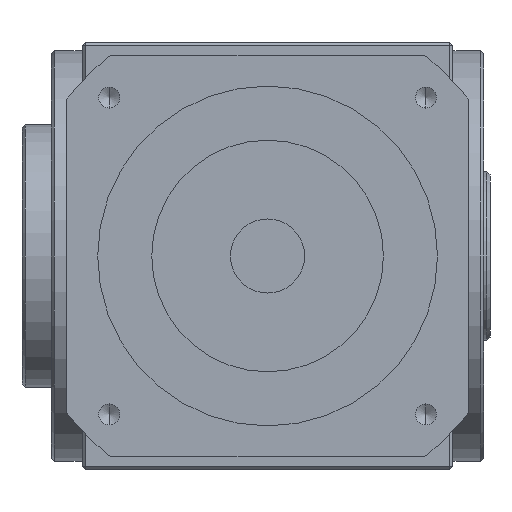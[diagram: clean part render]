
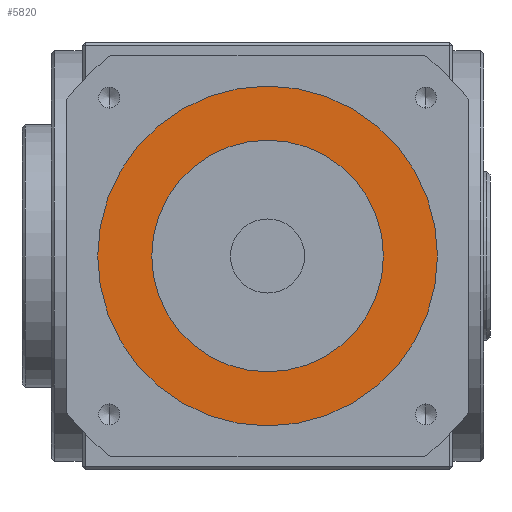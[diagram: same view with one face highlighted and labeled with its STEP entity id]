
A CAD part, front view. The second image highlights one B-rep face of the part: STEP entity #5820.
In plain terms, the highlighted planar face has unit normal (0, -1, 0).
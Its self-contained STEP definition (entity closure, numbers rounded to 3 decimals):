
#556 = CARTESIAN_POINT ( 'NONE',  ( 0., -239., 55. ) ) ;
#2573 = AXIS2_PLACEMENT_3D ( 'NONE', #8893, #3729, #9723 ) ;
#2832 = AXIS2_PLACEMENT_3D ( 'NONE', #8053, #2900, #8906 ) ;
#2900 = DIRECTION ( 'NONE',  ( 0., 1., 0. ) ) ;
#3096 = CARTESIAN_POINT ( 'NONE',  ( 0., -239., 37.5 ) ) ;
#3132 = VERTEX_POINT ( 'NONE', #4850 ) ;
#3729 = DIRECTION ( 'NONE',  ( 0., -1., 0. ) ) ;
#3789 = DIRECTION ( 'NONE',  ( 0., -1., 0. ) ) ;
#4231 = AXIS2_PLACEMENT_3D ( 'NONE', #4657, #10587, #5528 ) ;
#4476 = DIRECTION ( 'NONE',  ( 0., -1., 0. ) ) ;
#4657 = CARTESIAN_POINT ( 'NONE',  ( 0., -239., 0. ) ) ;
#4850 = CARTESIAN_POINT ( 'NONE',  ( 0., -239., -55. ) ) ;
#5085 = EDGE_CURVE ( 'NONE', #5471, #10322, #6752, .T. ) ;
#5305 = EDGE_CURVE ( 'NONE', #8435, #3132, #5419, .T. ) ;
#5318 = PLANE ( 'NONE',  #10195 ) ;
#5419 = CIRCLE ( 'NONE', #2573, 55. ) ;
#5471 = VERTEX_POINT ( 'NONE', #3096 ) ;
#5528 = DIRECTION ( 'NONE',  ( 0., 0., -1. ) ) ;
#5820 = ADVANCED_FACE ( 'NONE', ( #7111, #9111 ), #5318, .T. ) ;
#5875 = EDGE_LOOP ( 'NONE', ( #9566, #9349 ) ) ;
#5920 = EDGE_CURVE ( 'NONE', #3132, #8435, #10431, .T. ) ;
#6752 = CIRCLE ( 'NONE', #4231, 37.5 ) ;
#7111 = FACE_OUTER_BOUND ( 'NONE', #7880, .T. ) ;
#7880 = EDGE_LOOP ( 'NONE', ( #9928, #9759 ) ) ;
#8053 = CARTESIAN_POINT ( 'NONE',  ( 0., -239., 0. ) ) ;
#8070 = EDGE_CURVE ( 'NONE', #10322, #5471, #8779, .T. ) ;
#8229 = CARTESIAN_POINT ( 'NONE',  ( 0., -239., -37.5 ) ) ;
#8435 = VERTEX_POINT ( 'NONE', #556 ) ;
#8779 = CIRCLE ( 'NONE', #2832, 37.5 ) ;
#8893 = CARTESIAN_POINT ( 'NONE',  ( 0., -239., 0. ) ) ;
#8906 = DIRECTION ( 'NONE',  ( 0., 0., -1. ) ) ;
#8948 = CARTESIAN_POINT ( 'NONE',  ( 0., -239., 0. ) ) ;
#9111 = FACE_BOUND ( 'NONE', #5875, .T. ) ;
#9224 = AXIS2_PLACEMENT_3D ( 'NONE', #8948, #3789, #9769 ) ;
#9349 = ORIENTED_EDGE ( 'NONE', *, *, #5085, .T. ) ;
#9566 = ORIENTED_EDGE ( 'NONE', *, *, #8070, .T. ) ;
#9594 = CARTESIAN_POINT ( 'NONE',  ( 0., -239., 0. ) ) ;
#9723 = DIRECTION ( 'NONE',  ( 0., 0., -1. ) ) ;
#9759 = ORIENTED_EDGE ( 'NONE', *, *, #5305, .T. ) ;
#9769 = DIRECTION ( 'NONE',  ( 0., 0., -1. ) ) ;
#9928 = ORIENTED_EDGE ( 'NONE', *, *, #5920, .T. ) ;
#10195 = AXIS2_PLACEMENT_3D ( 'NONE', #9594, #4476, #10423 ) ;
#10322 = VERTEX_POINT ( 'NONE', #8229 ) ;
#10423 = DIRECTION ( 'NONE',  ( 0., 0., -1. ) ) ;
#10431 = CIRCLE ( 'NONE', #9224, 55. ) ;
#10587 = DIRECTION ( 'NONE',  ( 0., 1., 0. ) ) ;
